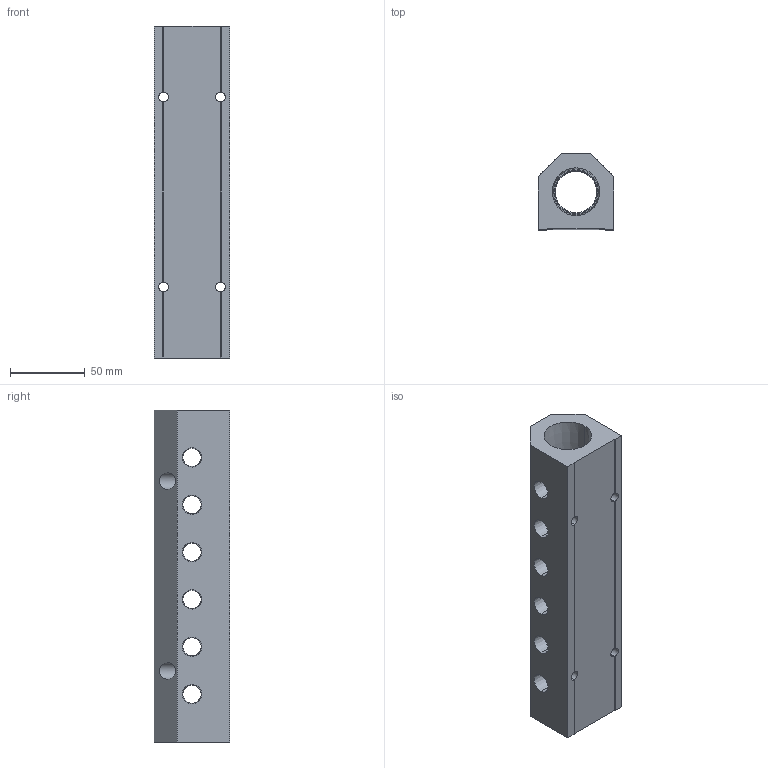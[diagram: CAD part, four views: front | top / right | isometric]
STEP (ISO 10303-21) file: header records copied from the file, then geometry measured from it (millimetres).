
FILE_DESCRIPTION (( 'STEP AP214' ), '1' );
FILE_NAME ('ALM6ACE-N4N16-222R.STEP', '2023-11-02T06:50:16', ( '' ), ( '' ), 'SwSTEP 2.0', 'SolidWorks 2020', '' );
FILE_SCHEMA (( 'AUTOMOTIVE_DESIGN' ));
Length unit declared in the file: millimetre
Products named in the file (1): ALM6ACE-N4N16-222R
Bounding box: 50.8 x 50.8 x 222 mm (x, y, z)
Volume: 338474.2 mm3; surface area: 71942.4 mm2
Topology: 1 solids, 1 shells, 338 faces, 908 edges, 592 vertices
Faces by surface type: plane 219, bspline 53, cone 44, cylinder 22
Entity records: 18555 total; most frequent: CARTESIAN_POINT 7274, ORIENTED_EDGE 1816, DIRECTION 1402, EDGE_CURVE 908, VECTOR 670, LINE 670, VERTEX_POINT 592, EDGE_LOOP 404
